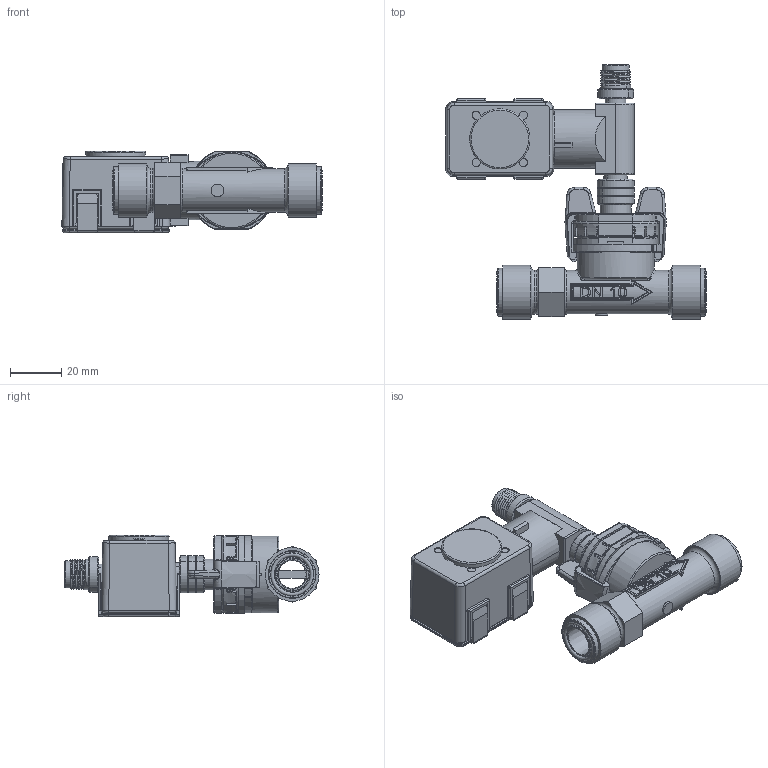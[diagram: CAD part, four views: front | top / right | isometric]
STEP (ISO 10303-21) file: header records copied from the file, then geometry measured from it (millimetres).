
FILE_DESCRIPTION(/* description */ (''),/* implementation_level */ '2;1');
FILE_NAME(/* name */ '212.x10xxxxxK.stp',/* time_stamp */ '2022-07-05T11:22:05+02:00',/* author */ (''),/* organization */ (''),/* preprocessor_version */ 'ST-DEVELOPER v18.102',/* originating_system */ 'SIEMENS PLM Software NX 2000',/* authorisation */ '');
FILE_SCHEMA (('AUTOMOTIVE_DESIGN { 1 0 10303 214 3 1 1 1 }'));
Products named in the file (1): uch147B01A64jin5
Bounding box: 101.45 x 99.06 x 31.88 mm (x, y, z)
Volume: 84650.5 mm3; surface area: 46287.9 mm2
Topology: 13 solids, 17 shells, 1580 faces, 4153 edges, 2627 vertices
Faces by surface type: plane 633, cylinder 457, extrusion 124, torus 120, cone 113, bspline 98, sphere 34, revolution 1
Full cylindrical faces by diameter (mm): 1 x5, 3.234 x4, 5 x1, 5.76 x3, 7.98 x4, 8.15 x2, 10 x1, 10.4 x1, 10.6 x1, 11 x1, 12 x1, 12.85 x2, 15.17 x1, 15.4 x1, 16.093 x1, 16.75 x2, 17 x2, 18.6 x2, 19.707 x1, 20.955 x2, 23.426 x1, 30 x1
Entity records: 65725 total; most frequent: CARTESIAN_POINT 21154, ORIENTED_EDGE 7862, DIRECTION 7184, EDGE_CURVE 3931, AXIS2_PLACEMENT_3D 2659, VERTEX_POINT 2558, VECTOR 1865, EDGE_LOOP 1794
